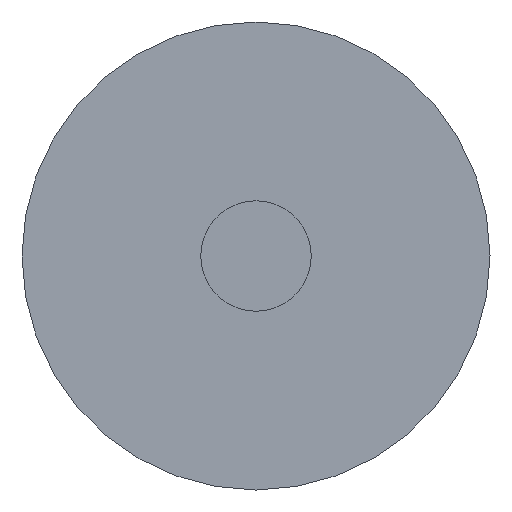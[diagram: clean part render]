
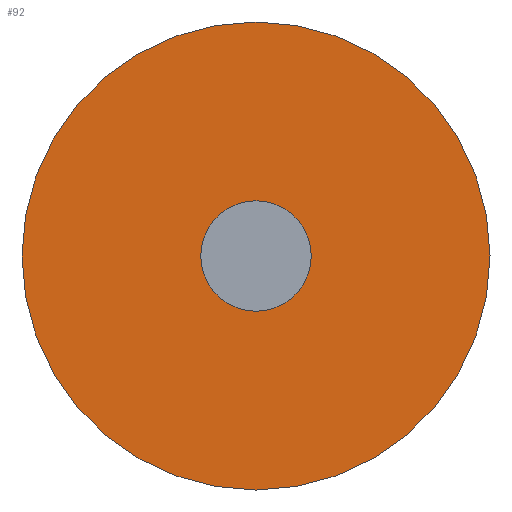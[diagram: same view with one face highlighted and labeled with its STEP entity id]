
A CAD part, left-side view. The second image highlights one B-rep face of the part: STEP entity #92.
In plain terms, the highlighted planar face has unit normal (-1, 0, 0).
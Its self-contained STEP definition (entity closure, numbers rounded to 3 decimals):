
#16=PLANE('',#107);
#26=FACE_OUTER_BOUND('',#36,.T.);
#36=EDGE_LOOP('',(#66));
#47=CIRCLE('',#106,1.715);
#53=VERTEX_POINT('',#155);
#59=EDGE_CURVE('',#53,#53,#47,.T.);
#66=ORIENTED_EDGE('',*,*,#59,.T.);
#92=ADVANCED_FACE('',(#26),#16,.F.);
#106=AXIS2_PLACEMENT_3D('',#156,#125,#126);
#107=AXIS2_PLACEMENT_3D('',#157,#127,#128);
#125=DIRECTION('center_axis',(-1.,0.,0.));
#126=DIRECTION('ref_axis',(0.,-1.,0.));
#127=DIRECTION('center_axis',(1.,0.,0.));
#128=DIRECTION('ref_axis',(0.,0.,-1.));
#155=CARTESIAN_POINT('',(0.,1.715,0.));
#156=CARTESIAN_POINT('Origin',(0.,0.,0.));
#157=CARTESIAN_POINT('Origin',(0.,0.,0.));
